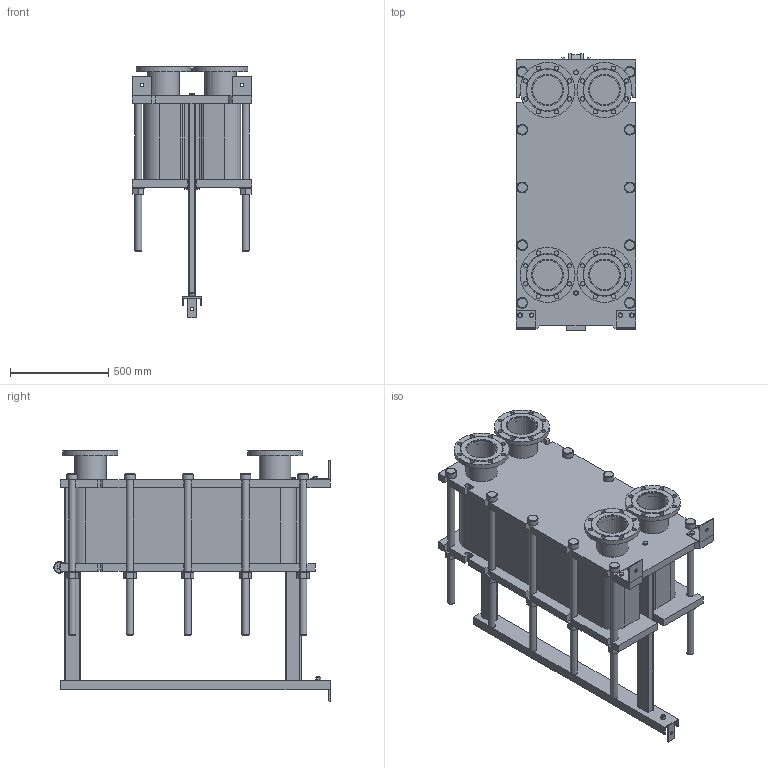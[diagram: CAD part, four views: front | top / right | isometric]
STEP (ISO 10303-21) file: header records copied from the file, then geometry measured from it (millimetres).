
FILE_DESCRIPTION(/* description */ (''),/* implementation_level */ '2;1');
FILE_NAME(/* name */ 'C:\Users\zhuro\Desktop\ENCO\TO\ЭН-041\ЭН-0,5-041-112-1.stp',/* time_stamp */ '2022-06-06T10:59:02+03:00',/* author */ ('zhuro'),/* organization */ (''),/* preprocessor_version */ 'ST-DEVELOPER v18.1',/* originating_system */ 'Autodesk Inventor 2022',/* authorisation */ '');
FILE_SCHEMA (('AUTOMOTIVE_DESIGN { 1 0 10303 214 3 1 1 }'));
Length unit declared in the file: millimetre
Products named in the file (1): ЭН-0,5-041-112-1
Bounding box: 610 x 1406.5 x 1280 mm (x, y, z)
Volume: 298642187.1 mm3; surface area: 9289101.3 mm2
Topology: 52 solids, 52 shells, 711 faces, 1696 edges, 1094 vertices
Faces by surface type: plane 487, cylinder 177, cone 41, torus 6
Full cylindrical faces by diameter (mm): 8 x4, 10 x2, 16 x8, 18 x3, 22 x32, 36 x24, 50 x1, 54 x10, 60 x12, 151 x4, 161 x8, 280 x4
Entity records: 22667 total; most frequent: CARTESIAN_POINT 5230, DIRECTION 3644, ORIENTED_EDGE 3392, EDGE_CURVE 1696, AXIS2_PLACEMENT_3D 1272, LINE 1100, VECTOR 1100, VERTEX_POINT 1094
